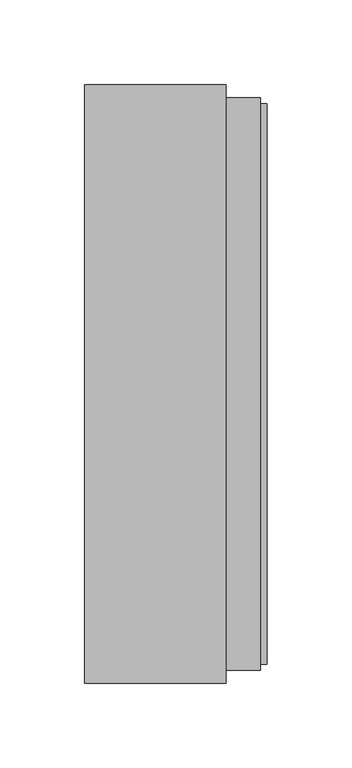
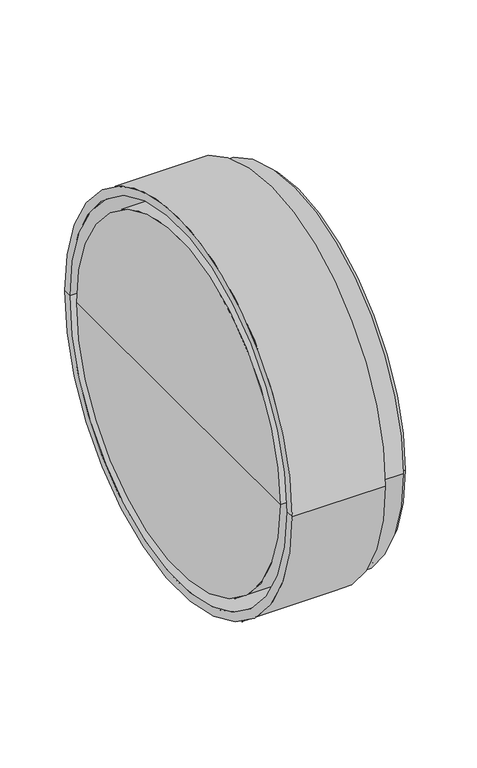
"""IFC4 building model written with IfcOpenShell, lengths in millimetres: pipe fitting geometry, pf_KGUSM : pf_KGUSM."""

from ifc_helpers import new_model, si_unit, frame, origin, place, context, project, spatial, polyline, circle_curve, source, transform, mapped, element, save
from ifc_brep_helpers import plane_surface, cylinder_surface, revolved_surface, advanced_brep


def pipe_fitting_90de1f05(model_context):
    return source(origin(), model_context, "Body", "AdvancedBrep", [
        advanced_brep(
        [(-1.75, 0.0, 0.0), (-1.75, 157.5, 0.0), (-1.75, -157.5, 0.0), (105.75, -165.2, 0.0), (105.75, 165.2, 0.0), (105.75, 157.5, 0.0), (105.75, -157.5, 0.0), (101.95, -165.2, 0.0), (101.95, 165.2, 0.0), (101.95, -168.6, 0.0), (101.95, 168.6, 0.0), (81.55, -168.6, 0.0), (81.55, 168.6, 0.0), (71.25, -157.5, 0.0), (71.25, 157.5, 0.0), (71.25, 0.0, 0.0), (81.55, -176.3, 0.0), (81.55, 176.3, 0.0), (-1.75, -176.3, 0.0), (-1.75, 176.3, 0.0), (-1.75, -168.6, 0.0), (-1.75, 168.6, 0.0), (68.0131579, -168.6, 0.0), (68.0131579, 168.6, 0.0), (68.0131579, -165.2, 0.0), (68.0131579, 165.2, 0.0), (71.25, -165.2, 0.0), (71.25, 165.2, 0.0), (62.75, -157.5, 0.0), (62.75, 157.5, 0.0)],
        [
            (0, 1),
            (1, 2, circle_curve(frame((-1.75, 0.0, 0.0), z_axis=(-1.0, 0.0, 0.0), x_axis=(0.0, 1.0, 0.0)), 157.5)),
            (2, 0),
            (2, 1, circle_curve(frame((-1.75, 0.0, 0.0), z_axis=(-1.0, 0.0, 0.0), x_axis=(0.0, 1.0, 0.0)), 157.5)),
            (3, 4, circle_curve(frame((105.75, 0.0, 0.0), z_axis=(1.0, 0.0, 0.0), x_axis=(0.0, 1.0, 0.0)), 165.2)),
            (4, 5),
            (5, 6, circle_curve(frame((105.75, 0.0, 0.0), z_axis=(-1.0, 0.0, 0.0), x_axis=(0.0, 1.0, 0.0)), 157.5)),
            (6, 3),
            (4, 3, circle_curve(frame((105.75, 0.0, 0.0), z_axis=(1.0, 0.0, 0.0), x_axis=(0.0, 1.0, 0.0)), 165.2)),
            (6, 5, circle_curve(frame((105.75, 0.0, 0.0), z_axis=(-1.0, 0.0, 0.0), x_axis=(0.0, 1.0, 0.0)), 157.5)),
            (7, 8, circle_curve(frame((101.95, 0.0, 0.0), z_axis=(1.0, 0.0, 0.0), x_axis=(0.0, 1.0, 0.0)), 165.2)),
            (8, 4),
            (3, 7),
            (8, 7, circle_curve(frame((101.95, 0.0, 0.0), z_axis=(1.0, 0.0, 0.0), x_axis=(0.0, 1.0, 0.0)), 165.2)),
            (9, 10, circle_curve(frame((101.95, 0.0, 0.0), z_axis=(1.0, 0.0, 0.0), x_axis=(0.0, 1.0, 0.0)), 168.6)),
            (10, 8),
            (7, 9),
            (10, 9, circle_curve(frame((101.95, 0.0, 0.0), z_axis=(1.0, 0.0, 0.0), x_axis=(0.0, 1.0, 0.0)), 168.6)),
            (11, 12, circle_curve(frame((81.55, 0.0, 0.0), z_axis=(1.0, 0.0, 0.0), x_axis=(0.0, 1.0, 0.0)), 168.6)),
            (12, 10),
            (9, 11),
            (12, 11, circle_curve(frame((81.55, 0.0, 0.0), z_axis=(1.0, 0.0, 0.0), x_axis=(0.0, 1.0, 0.0)), 168.6)),
            (13, 14, circle_curve(frame((71.25, 0.0, 0.0), z_axis=(1.0, 0.0, 0.0), x_axis=(0.0, 1.0, 0.0)), 157.5)),
            (14, 15),
            (15, 13),
            (14, 13, circle_curve(frame((71.25, 0.0, 0.0), z_axis=(1.0, 0.0, 0.0), x_axis=(0.0, 1.0, 0.0)), 157.5)),
            (5, 14),
            (13, 6),
            (16, 17, circle_curve(frame((81.55, 0.0, 0.0), z_axis=(1.0, 0.0, 0.0), x_axis=(0.0, 1.0, 0.0)), 176.3)),
            (17, 12),
            (11, 16),
            (17, 16, circle_curve(frame((81.55, 0.0, 0.0), z_axis=(1.0, 0.0, 0.0), x_axis=(0.0, 1.0, 0.0)), 176.3)),
            (18, 19, circle_curve(frame((-1.75, 0.0, 0.0), z_axis=(1.0, 0.0, 0.0), x_axis=(0.0, 1.0, 0.0)), 176.3)),
            (19, 17),
            (16, 18),
            (19, 18, circle_curve(frame((-1.75, 0.0, 0.0), z_axis=(1.0, 0.0, 0.0), x_axis=(0.0, 1.0, 0.0)), 176.3)),
            (20, 21, circle_curve(frame((-1.75, 0.0, 0.0), z_axis=(1.0, 0.0, 0.0), x_axis=(0.0, 1.0, 0.0)), 168.6)),
            (21, 19),
            (18, 20),
            (21, 20, circle_curve(frame((-1.75, 0.0, 0.0), z_axis=(1.0, 0.0, 0.0), x_axis=(0.0, 1.0, 0.0)), 168.6)),
            (22, 23, circle_curve(frame((68.0131579, 0.0, 0.0), z_axis=(1.0, 0.0, 0.0), x_axis=(0.0, 1.0, 0.0)), 168.6)),
            (23, 21),
            (20, 22),
            (23, 22, circle_curve(frame((68.0131579, 0.0, 0.0), z_axis=(1.0, 0.0, 0.0), x_axis=(0.0, 1.0, 0.0)), 168.6)),
            (24, 25, circle_curve(frame((68.0131579, 0.0, 0.0), z_axis=(1.0, 0.0, 0.0), x_axis=(0.0, 1.0, 0.0)), 165.2)),
            (25, 23),
            (22, 24),
            (25, 24, circle_curve(frame((68.0131579, 0.0, 0.0), z_axis=(1.0, 0.0, 0.0), x_axis=(0.0, 1.0, 0.0)), 165.2)),
            (26, 27, circle_curve(frame((71.25, 0.0, 0.0), z_axis=(1.0, 0.0, 0.0), x_axis=(0.0, 1.0, 0.0)), 165.2)),
            (27, 25),
            (24, 26),
            (27, 26, circle_curve(frame((71.25, 0.0, 0.0), z_axis=(1.0, 0.0, 0.0), x_axis=(0.0, 1.0, 0.0)), 165.2)),
            (28, 29, circle_curve(frame((62.75, 0.0, 0.0), z_axis=(1.0, 0.0, 0.0), x_axis=(0.0, 1.0, 0.0)), 157.5)),
            (29, 27),
            (26, 28),
            (29, 28, circle_curve(frame((62.75, 0.0, 0.0), z_axis=(1.0, 0.0, 0.0), x_axis=(0.0, 1.0, 0.0)), 157.5)),
            (1, 29),
            (28, 2),
        ],
        [
            plane_surface(frame((-1.75, 0.0, 0.0), z_axis=(-1.0, 0.0, 0.0), x_axis=(0.0, 1.0, 0.0))),
            plane_surface(frame((105.75, 0.0, 0.0), z_axis=(1.0, 0.0, 0.0), x_axis=(0.0, 1.0, 0.0))),
            cylinder_surface(frame((-1.75, 0.0, 0.0), z_axis=(-1.0, 0.0, 0.0), x_axis=(0.0, 1.0, 0.0)), 165.2),
            plane_surface(frame((101.95, 0.0, 0.0), z_axis=(1.0, 0.0, 0.0), x_axis=(0.0, 1.0, 0.0))),
            cylinder_surface(frame((-1.75, 0.0, 0.0), z_axis=(-1.0, 0.0, 0.0), x_axis=(0.0, 1.0, 0.0)), 168.6),
            plane_surface(frame((71.25, 0.0, 0.0), z_axis=(1.0, 0.0, 0.0), x_axis=(0.0, 1.0, 0.0))),
            revolved_surface(polyline([(71.25, 157.5, 0.0), (105.75, 157.5, 0.0)]), (-1.75, 0.0, 0.0), (-1.0, 0.0, 0.0)),
            plane_surface(frame((81.55, 0.0, 0.0), z_axis=(1.0, 0.0, 0.0), x_axis=(0.0, 1.0, 0.0))),
            cylinder_surface(frame((-1.75, 0.0, 0.0), z_axis=(-1.0, 0.0, 0.0), x_axis=(0.0, 1.0, 0.0)), 176.3),
            revolved_surface(polyline([(-1.75, 168.6, 0.0), (68.0131579, 168.6, 0.0)]), (-1.75, 0.0, 0.0), (-1.0, 0.0, 0.0)),
            plane_surface(frame((68.0131579, 0.0, 0.0), z_axis=(-1.0, 0.0, 0.0), x_axis=(0.0, 1.0, 0.0))),
            revolved_surface(polyline([(68.0131579, 165.2, 0.0), (71.25, 165.2, 0.0)]), (-1.75, 0.0, 0.0), (-1.0, 0.0, 0.0)),
            revolved_surface(polyline([(71.25, 165.2, 0.0), (62.75, 157.5, 0.0)]), (-1.75, 0.0, 0.0), (-1.0, 0.0, 0.0)),
            cylinder_surface(frame((-1.75, 0.0, 0.0), z_axis=(-1.0, 0.0, 0.0), x_axis=(0.0, 1.0, 0.0)), 157.5),
        ],
        [
            (0, [[1, 2, 3]]),
            (0, [[-3, 4, -1]]),
            (1, [[5, 6, 7, 8]]),
            (1, [[9, -8, 10, -6]]),
            (2, [[11, 12, -5, 13]]),
            (2, [[14, -13, -9, -12]]),
            (3, [[15, 16, -11, 17]]),
            (3, [[18, -17, -14, -16]]),
            (4, [[19, 20, -15, 21]]),
            (4, [[22, -21, -18, -20]]),
            (5, [[23, 24, 25]]),
            (5, [[26, -25, -24]]),
            (6, [[-7, 27, -23, 28]]),
            (6, [[-10, -28, -26, -27]]),
            (7, [[29, 30, -19, 31]]),
            (7, [[32, -31, -22, -30]]),
            (8, [[33, 34, -29, 35]]),
            (8, [[36, -35, -32, -34]]),
            (0, [[37, 38, -33, 39]]),
            (0, [[40, -39, -36, -38]]),
            (9, [[41, 42, -37, 43]]),
            (9, [[44, -43, -40, -42]]),
            (10, [[45, 46, -41, 47]]),
            (10, [[48, -47, -44, -46]]),
            (11, [[49, 50, -45, 51]]),
            (11, [[52, -51, -48, -50]]),
            (12, [[53, 54, -49, 55]]),
            (12, [[56, -55, -52, -54]]),
            (13, [[-2, 57, -53, 58]]),
            (13, [[-4, -58, -56, -57]]),
        ],
    ),
    ])


if __name__ == "__main__":
    model = new_model("IFC4")
    model_context = context("Model", 3, world=origin())
    ifc_project = project(units=[si_unit("LENGTHUNIT", "METRE", prefix="MILLI")], contexts=[model_context])
    site = spatial("IfcSite", under=ifc_project)
    building = spatial("IfcBuilding", under=site)
    placement = place(None, origin())
    pipe_fitting_shape = pipe_fitting_90de1f05(model_context)
    element("IfcPipeFitting", 1, ObjectType="pf_KGUSM : pf_KGUSM", at=placement, inside=building, context=model_context, shape_type="MappedRepresentation", body=[
        mapped(pipe_fitting_shape, transform((0.0, 0.0, 0.0), x_axis=(1.0, 0.0, 0.0), y_axis=(0.0, 1.0, 0.0), z_axis=(0.0, 0.0, 1.0))),
    ])
    save(model, "model.ifc")
